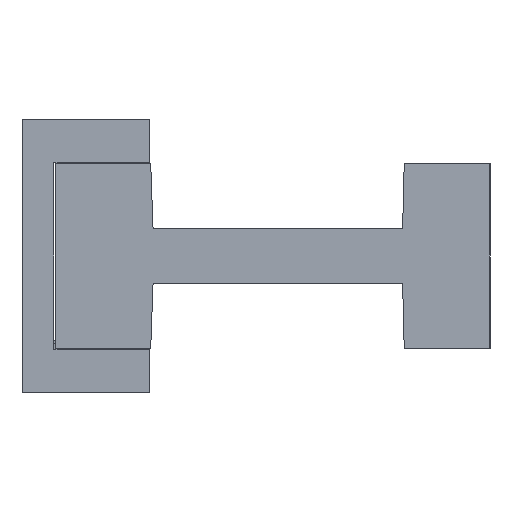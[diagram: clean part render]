
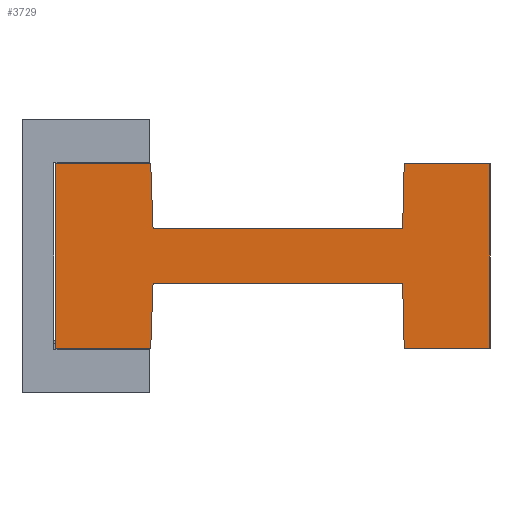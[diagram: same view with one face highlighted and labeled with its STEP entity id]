
A CAD part, left-side view. The second image highlights one B-rep face of the part: STEP entity #3729.
In plain terms, the highlighted planar face has unit normal (-1, 0, 0).
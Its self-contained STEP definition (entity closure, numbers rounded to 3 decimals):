
#221 = VERTEX_POINT ( 'NONE', #8849 ) ;
#231 = DIRECTION ( 'NONE',  ( 0., 1., 0. ) ) ;
#270 = CARTESIAN_POINT ( 'NONE',  ( -121.487, -4.3, 255.96 ) ) ;
#325 = LINE ( 'NONE', #2466, #5488 ) ;
#531 = EDGE_LOOP ( 'NONE', ( #7477, #2534, #9083, #8071, #4595, #6885, #3903, #5137, #6027, #7744, #1610, #4064 ) ) ;
#532 = DIRECTION ( 'NONE',  ( 0., 1., 0. ) ) ;
#533 = VERTEX_POINT ( 'NONE', #9185 ) ;
#660 = DIRECTION ( 'NONE',  ( -1., 0., 0. ) ) ;
#691 = VECTOR ( 'NONE', #9126, 1000. ) ;
#770 = CARTESIAN_POINT ( 'NONE',  ( -121.487, -60., 232.26 ) ) ;
#912 = EDGE_CURVE ( 'NONE', #221, #5713, #8958, .T. ) ;
#1279 = EDGE_CURVE ( 'NONE', #2108, #6620, #5086, .T. ) ;
#1318 = VECTOR ( 'NONE', #7625, 1000. ) ;
#1376 = CARTESIAN_POINT ( 'NONE',  ( -121.487, -60., 232.26 ) ) ;
#1401 = CARTESIAN_POINT ( 'NONE',  ( -121.487, -4.3, 232.26 ) ) ;
#1417 = LINE ( 'NONE', #8339, #8584 ) ;
#1440 = CARTESIAN_POINT ( 'NONE',  ( -121.487, -60., 244.11 ) ) ;
#1445 = CARTESIAN_POINT ( 'NONE',  ( -121.487, -16.8, 247.61 ) ) ;
#1501 = LINE ( 'NONE', #9325, #1318 ) ;
#1610 = ORIENTED_EDGE ( 'NONE', *, *, #912, .T. ) ;
#1655 = VECTOR ( 'NONE', #9379, 1000. ) ;
#1746 = CARTESIAN_POINT ( 'NONE',  ( -121.487, -48.8, 247.61 ) ) ;
#1854 = LINE ( 'NONE', #2441, #1655 ) ;
#1912 = FACE_OUTER_BOUND ( 'NONE', #531, .T. ) ;
#2024 = VECTOR ( 'NONE', #532, 1000. ) ;
#2047 = EDGE_CURVE ( 'NONE', #8070, #6479, #2180, .T. ) ;
#2062 = VERTEX_POINT ( 'NONE', #7352 ) ;
#2108 = VERTEX_POINT ( 'NONE', #8299 ) ;
#2129 = DIRECTION ( 'NONE',  ( 0., 1., 0. ) ) ;
#2157 = EDGE_CURVE ( 'NONE', #9790, #2062, #2234, .T. ) ;
#2180 = LINE ( 'NONE', #1376, #3413 ) ;
#2234 = LINE ( 'NONE', #2972, #691 ) ;
#2441 = CARTESIAN_POINT ( 'NONE',  ( -121.487, -4.3, 255.96 ) ) ;
#2466 = CARTESIAN_POINT ( 'NONE',  ( -121.487, -16.8, 247.61 ) ) ;
#2534 = ORIENTED_EDGE ( 'NONE', *, *, #1279, .F. ) ;
#2547 = EDGE_CURVE ( 'NONE', #533, #221, #325, .T. ) ;
#2757 = VECTOR ( 'NONE', #8038, 1000. ) ;
#2804 = CARTESIAN_POINT ( 'NONE',  ( -121.487, -49., 232.26 ) ) ;
#2972 = CARTESIAN_POINT ( 'NONE',  ( -121.487, -60., 255.96 ) ) ;
#3138 = DIRECTION ( 'NONE',  ( 0., 0.036, -0.999 ) ) ;
#3413 = VECTOR ( 'NONE', #2129, 1000. ) ;
#3471 = EDGE_CURVE ( 'NONE', #6445, #5502, #4232, .T. ) ;
#3612 = CARTESIAN_POINT ( 'NONE',  ( -121.487, -4.3, 255.96 ) ) ;
#3729 = ADVANCED_FACE ( 'NONE', ( #1912 ), #4902, .T. ) ;
#3903 = ORIENTED_EDGE ( 'NONE', *, *, #7392, .T. ) ;
#4064 = ORIENTED_EDGE ( 'NONE', *, *, #6807, .T. ) ;
#4081 = VECTOR ( 'NONE', #3138, 1000. ) ;
#4134 = EDGE_CURVE ( 'NONE', #6479, #6445, #1417, .T. ) ;
#4232 = LINE ( 'NONE', #9719, #2024 ) ;
#4595 = ORIENTED_EDGE ( 'NONE', *, *, #4134, .F. ) ;
#4746 = DIRECTION ( 'NONE',  ( 0., 0.024, -1. ) ) ;
#4871 = CARTESIAN_POINT ( 'NONE',  ( -121.487, -48.8, 240.61 ) ) ;
#4902 = PLANE ( 'NONE',  #5863 ) ;
#4981 = CARTESIAN_POINT ( 'NONE',  ( -121.487, -4.3, 232.26 ) ) ;
#5086 = LINE ( 'NONE', #4981, #2757 ) ;
#5137 = ORIENTED_EDGE ( 'NONE', *, *, #2157, .T. ) ;
#5229 = CARTESIAN_POINT ( 'NONE',  ( -121.487, -16.5, 255.96 ) ) ;
#5234 = DIRECTION ( 'NONE',  ( 0., 0.024, 1. ) ) ;
#5315 = DIRECTION ( 'NONE',  ( 0., 0., 1. ) ) ;
#5488 = VECTOR ( 'NONE', #231, 1000. ) ;
#5502 = VERTEX_POINT ( 'NONE', #9402 ) ;
#5550 = CARTESIAN_POINT ( 'NONE',  ( -121.487, -16.8, 240.61 ) ) ;
#5713 = VERTEX_POINT ( 'NONE', #5229 ) ;
#5769 = EDGE_CURVE ( 'NONE', #2062, #533, #7059, .T. ) ;
#5863 = AXIS2_PLACEMENT_3D ( 'NONE', #1440, #660, #5315 ) ;
#6027 = ORIENTED_EDGE ( 'NONE', *, *, #5769, .T. ) ;
#6369 = LINE ( 'NONE', #270, #8382 ) ;
#6389 = VECTOR ( 'NONE', #6709, 1000. ) ;
#6445 = VERTEX_POINT ( 'NONE', #4871 ) ;
#6479 = VERTEX_POINT ( 'NONE', #2804 ) ;
#6620 = VERTEX_POINT ( 'NONE', #1401 ) ;
#6709 = DIRECTION ( 'NONE',  ( 0., 0.036, 0.999 ) ) ;
#6807 = EDGE_CURVE ( 'NONE', #5713, #9213, #1854, .T. ) ;
#6885 = ORIENTED_EDGE ( 'NONE', *, *, #2047, .F. ) ;
#7059 = LINE ( 'NONE', #1746, #7828 ) ;
#7352 = CARTESIAN_POINT ( 'NONE',  ( -121.487, -49., 255.96 ) ) ;
#7392 = EDGE_CURVE ( 'NONE', #8070, #9790, #1501, .T. ) ;
#7477 = ORIENTED_EDGE ( 'NONE', *, *, #7739, .T. ) ;
#7625 = DIRECTION ( 'NONE',  ( 0., 0., 1. ) ) ;
#7739 = EDGE_CURVE ( 'NONE', #9213, #6620, #6369, .T. ) ;
#7744 = ORIENTED_EDGE ( 'NONE', *, *, #2547, .T. ) ;
#7828 = VECTOR ( 'NONE', #4746, 1000. ) ;
#8038 = DIRECTION ( 'NONE',  ( 0., 1., 0. ) ) ;
#8070 = VERTEX_POINT ( 'NONE', #770 ) ;
#8071 = ORIENTED_EDGE ( 'NONE', *, *, #3471, .F. ) ;
#8072 = DIRECTION ( 'NONE',  ( 0., 0., -1. ) ) ;
#8299 = CARTESIAN_POINT ( 'NONE',  ( -121.487, -16.5, 232.26 ) ) ;
#8339 = CARTESIAN_POINT ( 'NONE',  ( -121.487, -48.8, 240.61 ) ) ;
#8382 = VECTOR ( 'NONE', #8072, 1000. ) ;
#8546 = LINE ( 'NONE', #5550, #4081 ) ;
#8584 = VECTOR ( 'NONE', #5234, 1000. ) ;
#8849 = CARTESIAN_POINT ( 'NONE',  ( -121.487, -16.8, 247.61 ) ) ;
#8958 = LINE ( 'NONE', #1445, #6389 ) ;
#8964 = EDGE_CURVE ( 'NONE', #5502, #2108, #8546, .T. ) ;
#9083 = ORIENTED_EDGE ( 'NONE', *, *, #8964, .F. ) ;
#9126 = DIRECTION ( 'NONE',  ( 0., 1., 0. ) ) ;
#9185 = CARTESIAN_POINT ( 'NONE',  ( -121.487, -48.8, 247.61 ) ) ;
#9213 = VERTEX_POINT ( 'NONE', #3612 ) ;
#9325 = CARTESIAN_POINT ( 'NONE',  ( -121.487, -60., 244.11 ) ) ;
#9379 = DIRECTION ( 'NONE',  ( 0., 1., 0. ) ) ;
#9402 = CARTESIAN_POINT ( 'NONE',  ( -121.487, -16.8, 240.61 ) ) ;
#9719 = CARTESIAN_POINT ( 'NONE',  ( -121.487, -16.8, 240.61 ) ) ;
#9761 = CARTESIAN_POINT ( 'NONE',  ( -121.487, -60., 255.96 ) ) ;
#9790 = VERTEX_POINT ( 'NONE', #9761 ) ;
